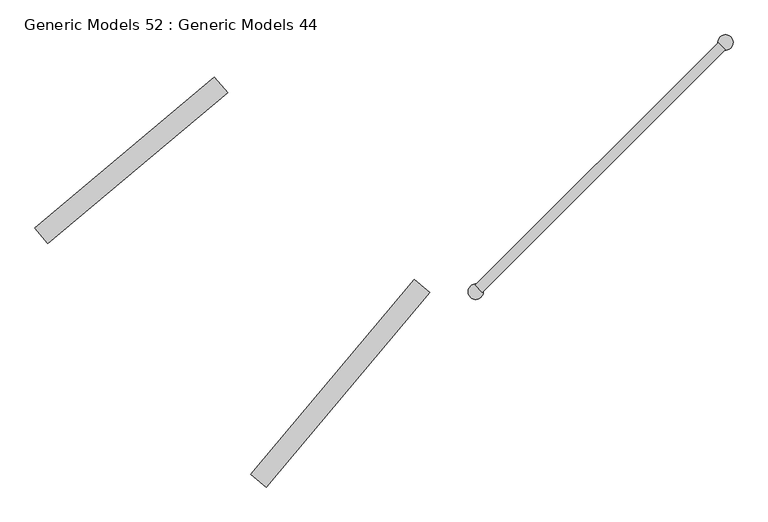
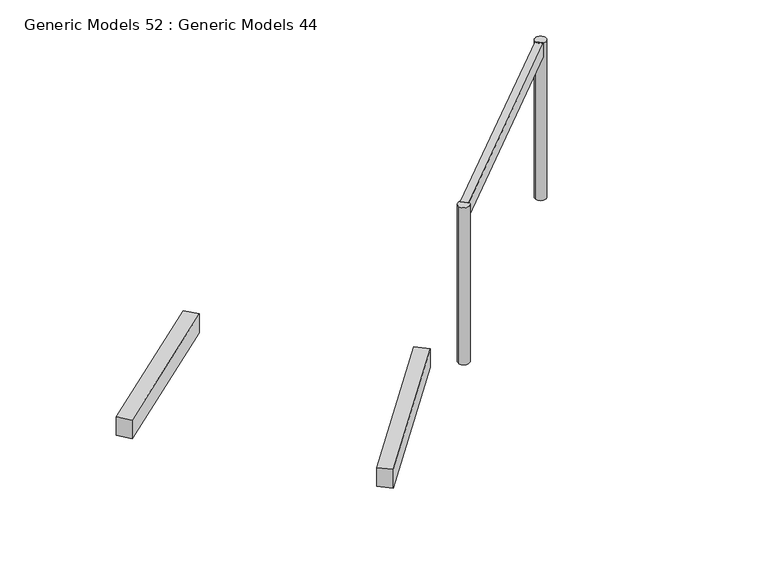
"""IFC4 building model written with IfcOpenShell, lengths in millimetres: proxy geometry, Generic Models 52 : Generic Models 44."""

from ifc_helpers import new_model, si_unit, point, frame, frame_2d, origin, place, context, project, spatial, polyline, circle_curve, trimmed, segment, composite_curve, outline, extrude, source, transform, mapped, element, save


def generic_models_52_generic_models_44_28ae5a0a(model_context):
    return source(origin(), model_context, "Body", "SweptSolid", [
        extrude(outline(polyline([(-92039.5004437, -35737.0994253), (-92192.7093323, -35608.5419033), (-90581.6819797, -33688.5942681), (-90428.4730911, -33817.1517901), (-92039.5004437, -35737.0994253)])), frame((0.0, 0.0, 42770.0), z_axis=(0.0, 0.0, 1.0), x_axis=(1.0, 0.0, 0.0)), (0.0, 0.0, 1.0), 268.5053554),
        extrude(outline(polyline([(-94188.5272852, -33333.9533005), (-94317.0848072, -33180.7444118), (-92548.7171327, -31696.9077484), (-92420.1596108, -31850.116637), (-94188.5272852, -33333.9533005)])), frame((0.0, 0.0, 42770.0), z_axis=(0.0, 0.0, 1.0), x_axis=(1.0, 0.0, 0.0)), (0.0, 0.0, 1.0), 268.5053554),
        extrude(outline(polyline([(-89910.6907659, -33817.7796088), (-89981.401444, -33747.0689307), (-87588.6864065, -31354.3538932), (-87517.9757284, -31425.0645713), (-89910.6907659, -33817.7796088)])), frame((0.0, 0.0, 44746.1646464), z_axis=(0.0, 0.0, 1.0), x_axis=(1.0, 0.0, 0.0)), (0.0, 0.0, 1.0), 195.4634247),
        extrude(outline(composite_curve([segment(trimmed(circle_curve(frame_2d((-89975.7579674, -33810.9678051)), 75.0), [point((-90050.7579674, -33810.9678051))], [point((-89900.7579674, -33810.9678051))], False, "CARTESIAN"), True, "CONTINUOUS"), segment(trimmed(circle_curve(frame_2d((-89975.7579674, -33810.9678051)), 75.0), [point((-89900.7579674, -33810.9678051))], [point((-90050.7579674, -33810.9678051))], False, "CARTESIAN"), True, "CONTINUOUS")], self_intersect=False)), frame((0.0, 0.0, 42695.9057084), z_axis=(0.0, 0.0, 1.0), x_axis=(1.0, 0.0, 0.0)), (0.0, 0.0, 1.0), 2245.7223627),
        extrude(outline(composite_curve([segment(trimmed(circle_curve(frame_2d((-87515.5692381, -31353.5552475)), 75.0), [point((-87590.5692381, -31353.5552475))], [point((-87440.5692381, -31353.5552475))], False, "CARTESIAN"), True, "CONTINUOUS"), segment(trimmed(circle_curve(frame_2d((-87515.5692381, -31353.5552475)), 75.0), [point((-87440.5692381, -31353.5552475))], [point((-87590.5692381, -31353.5552475))], False, "CARTESIAN"), True, "CONTINUOUS")], self_intersect=False)), frame((0.0, 0.0, 42695.9057084), z_axis=(0.0, 0.0, 1.0), x_axis=(1.0, 0.0, 0.0)), (0.0, 0.0, 1.0), 2245.7223627),
    ])


if __name__ == "__main__":
    model = new_model("IFC4")
    model_context = context("Model", 3, world=origin())
    ifc_project = project(units=[si_unit("LENGTHUNIT", "METRE", prefix="MILLI")], contexts=[model_context])
    site = spatial("IfcSite", under=ifc_project)
    building = spatial("IfcBuilding", under=site)
    placement = place(None, origin())
    generic_models_52_generic_models_44_shape = generic_models_52_generic_models_44_28ae5a0a(model_context)
    element("IfcBuildingElementProxy", 1, Name="Generic Models 52 : Generic Models 44", ObjectType="Generic Models 52 : Generic Models 44", at=placement, inside=building, context=model_context, shape_type="MappedRepresentation", body=[
        mapped(generic_models_52_generic_models_44_shape, transform((0.0, 0.0, 0.0), x_axis=(1.0, 0.0, 0.0), y_axis=(0.0, 1.0, 0.0), z_axis=(0.0, 0.0, 1.0))),
    ])
    save(model, "model.ifc")
